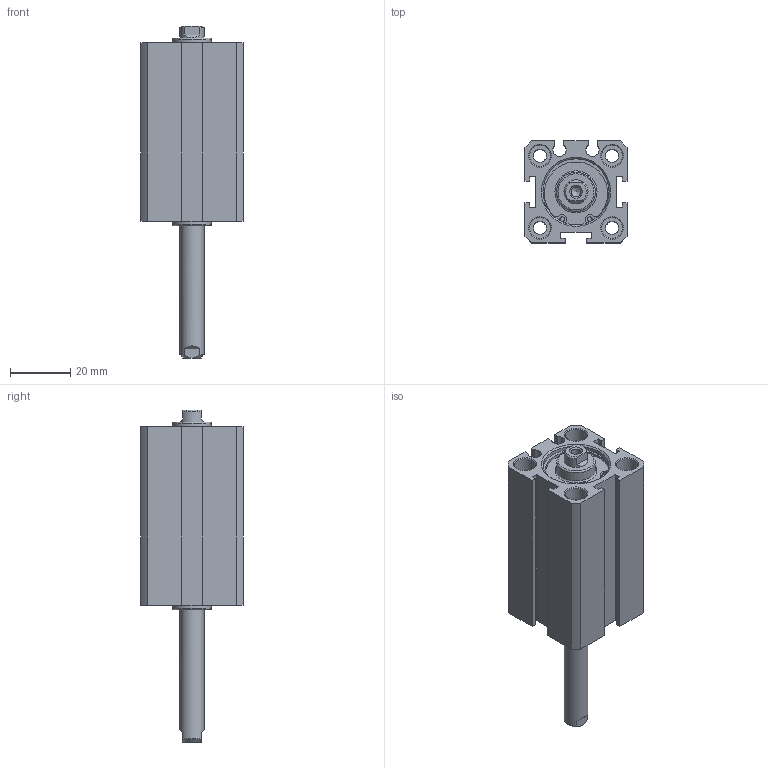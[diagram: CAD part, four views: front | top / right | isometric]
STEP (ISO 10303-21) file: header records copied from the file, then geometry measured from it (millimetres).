
FILE_DESCRIPTION((''),'2;1');
FILE_NAME('I:\3D電子目錄\氣缸\JDD\JDD\JDD20\JDD20x40.stp','2007-02-08T09:03:31',('662F206'),(''),'Autodesk Inventor 10','Autodesk Inventor 10','');
FILE_SCHEMA(('AUTOMOTIVE_DESIGN { 1 0 10303 214 1 1 1 1 }'));
Length unit declared in the file: millimetre
Products named in the file (3): JDD20; R 形環 23
Assembly tree (3 placements, depth 2):
  JDD20
    JDD20
    R 形環 23  x2
Bounding box: 34 x 34 x 110.5 mm (x, y, z)
Volume: 57193.3 mm3; surface area: 19995.6 mm2
Topology: 3 solids, 3 shells, 149 faces, 346 edges, 225 vertices
Faces by surface type: plane 70, cylinder 47, cone 18, bspline 12, torus 2
Full cylindrical faces by diameter (mm): 1.5 x6, 4.3 x4, 7 x8, 8 x1, 13 x2, 22 x4, 23.2 x2
Entity records: 3819 total; most frequent: CARTESIAN_POINT 813, DIRECTION 626, ORIENTED_EDGE 514, EDGE_CURVE 257, AXIS2_PLACEMENT_3D 246, EDGE_LOOP 220, VERTEX_POINT 195, FACE_OUTER_BOUND 137
